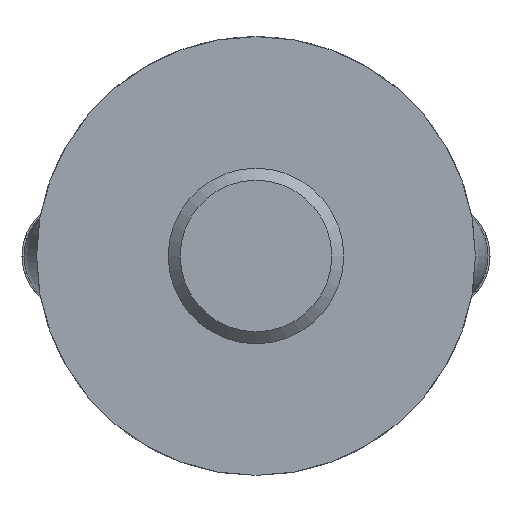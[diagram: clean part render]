
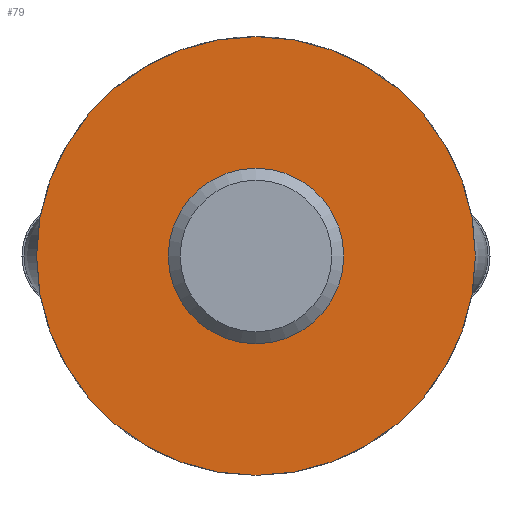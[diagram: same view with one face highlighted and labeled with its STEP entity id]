
A CAD part, front view. The second image highlights one B-rep face of the part: STEP entity #79.
In plain terms, the highlighted planar face has unit normal (0, -1, 0).
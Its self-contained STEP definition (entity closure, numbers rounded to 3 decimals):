
#79 = ADVANCED_FACE( '', ( #115, #116 ), #117, .F. );
#115 = FACE_BOUND( '', #186, .T. );
#116 = FACE_OUTER_BOUND( '', #187, .T. );
#117 = PLANE( '', #188 );
#186 = EDGE_LOOP( '', ( #276 ) );
#187 = EDGE_LOOP( '', ( #277 ) );
#188 = AXIS2_PLACEMENT_3D( '', #278, #279, #280 );
#276 = ORIENTED_EDGE( '', *, *, #464, .T. );
#277 = ORIENTED_EDGE( '', *, *, #465, .T. );
#278 = CARTESIAN_POINT( '', ( 45., 0., 0. ) );
#279 = DIRECTION( '', ( 0., 1., 0. ) );
#280 = DIRECTION( '', ( 0., 0., 1. ) );
#464 = EDGE_CURVE( '', #539, #539, #540, .T. );
#465 = EDGE_CURVE( '', #541, #541, #542, .T. );
#539 = VERTEX_POINT( '', #827 );
#540 = CIRCLE( '', #828, 18. );
#541 = VERTEX_POINT( '', #829 );
#542 = CIRCLE( '', #830, 45. );
#827 = CARTESIAN_POINT( '', ( 0., 0., 18. ) );
#828 = AXIS2_PLACEMENT_3D( '', #1149, #1150, #1151 );
#829 = CARTESIAN_POINT( '', ( 0., 0., -45. ) );
#830 = AXIS2_PLACEMENT_3D( '', #1152, #1153, #1154 );
#1149 = CARTESIAN_POINT( '', ( 0., 0., 0. ) );
#1150 = DIRECTION( '', ( 0., 1., 0. ) );
#1151 = DIRECTION( '', ( 0., 0., 1. ) );
#1152 = CARTESIAN_POINT( '', ( 0., 0., 0. ) );
#1153 = DIRECTION( '', ( 0., -1., 0. ) );
#1154 = DIRECTION( '', ( 0., 0., -1. ) );
